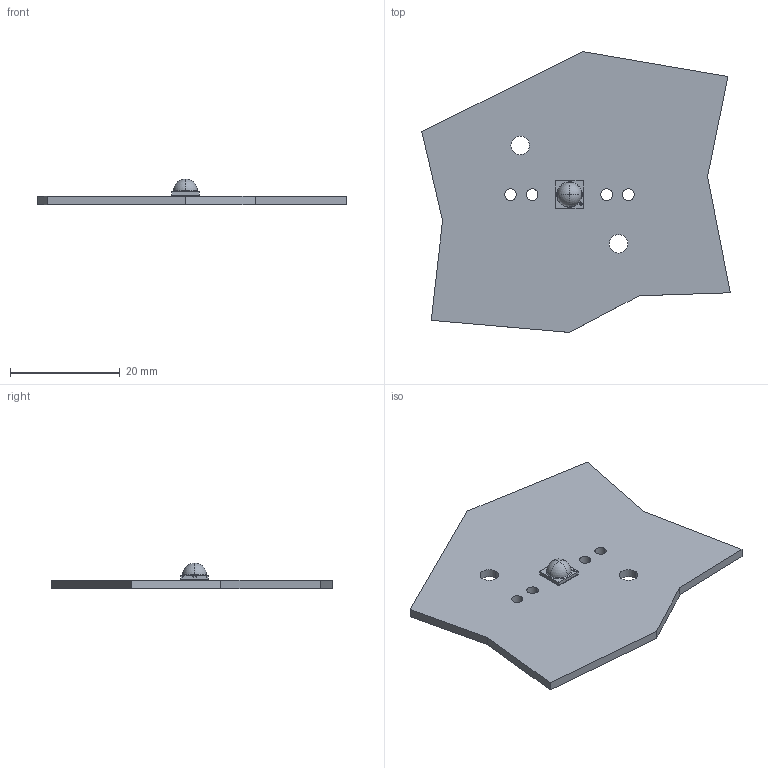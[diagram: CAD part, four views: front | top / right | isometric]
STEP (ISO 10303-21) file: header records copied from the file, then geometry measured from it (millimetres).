
FILE_DESCRIPTION(('CATIA V5 STEP Exchange'),'2;1');
FILE_NAME('C:\Users\matti.vuola.LEDIL\Catia-files\New folder\GABRIELLA-MIDI_PCB-layout.stp','2019-03-22T07:28:28+00:00',('none'),('none'),'Version 5-6 Release 2013','CATIA V5 STEP AP203','none');
FILE_SCHEMA(('CONFIG_CONTROL_DESIGN'));
Length unit declared in the file: millimetre
Products named in the file (1): Part2
Bounding box: 56.32 x 51.28 x 4.7 mm (x, y, z)
Volume: 3599.6 mm3; surface area: 4910.9 mm2
Topology: 2 solids, 2 shells, 99 faces, 237 edges, 149 vertices
Faces by surface type: plane 47, cylinder 28, cone 16, sphere 4, torus 4
Entity records: 2785 total; most frequent: CARTESIAN_POINT 533, ORIENTED_EDGE 466, DIRECTION 389, EDGE_CURVE 233, AXIS2_PLACEMENT_3D 161, VERTEX_POINT 149, VECTOR 143, LINE 143
